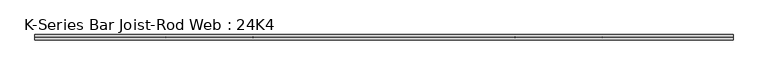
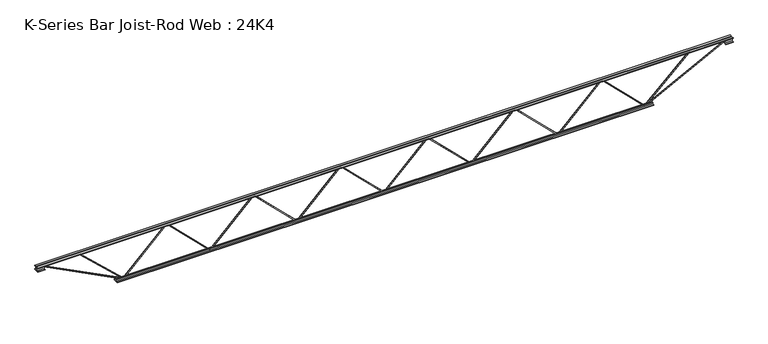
"""IFC4 building model written with IfcOpenShell, lengths in millimetres: beam geometry, K-Series Bar Joist-Rod Web : 24K4."""

from ifc_helpers import new_model, si_unit, frame, origin, place, context, project, spatial, polyline, outline, extrude, source, transform, mapped, element, save


def k_series_bar_joist_rod_web_24k4_b54f82ce(model_context):
    return source(origin(), model_context, "Body", "SweptSolid", [
        extrude(outline(polyline([(-293.6875, 1223.645), (-303.2125, 1223.645), (-303.2125, 1228.7733784), (293.6875, 1834.0077534), (293.6875, 1836.4509966), (-303.2125, 2441.6853716), (-303.2125, 2446.81375), (-293.6875, 2446.81375), (-293.6875, 2445.5921284), (303.2125, 1840.3577534), (303.2125, 1830.1009966), (-293.6875, 1224.8666216), (-293.6875, 1223.645)])), frame((0.0, -4.7625, 0.0), z_axis=(0.0, 1.0, 0.0), x_axis=(0.0, 0.0, 1.0)), (0.0, 0.0, 1.0), 9.525),
        extrude(outline(polyline([(-293.6875, 0.15875), (-303.2125, 0.15875), (-303.2125, 5.2871284), (293.6875, 610.5215034), (293.6875, 612.9647466), (-303.2125, 1218.1991216), (-303.2125, 1223.3275), (-293.6875, 1223.3275), (-293.6875, 1222.1058784), (303.2125, 616.8715034), (303.2125, 606.6147466), (-293.6875, 1.3803716), (-293.6875, 0.15875)])), frame((0.0, -4.7625, 0.0), z_axis=(0.0, 1.0, 0.0), x_axis=(0.0, 0.0, 1.0)), (0.0, 0.0, 1.0), 9.525),
        extrude(outline(polyline([(-293.6875, -1223.3275), (-303.2125, -1223.3275), (-303.2125, -1218.1991216), (293.6875, -612.9647466), (293.6875, -610.5215034), (-303.2125, -5.2871284), (-303.2125, -0.15875), (-293.6875, -0.15875), (-293.6875, -1.3803716), (303.2125, -606.6147466), (303.2125, -616.8715034), (-293.6875, -1222.1058784), (-293.6875, -1223.3275)])), frame((0.0, -4.7625, 0.0), z_axis=(0.0, 1.0, 0.0), x_axis=(0.0, 0.0, 1.0)), (0.0, 0.0, 1.0), 9.525),
        extrude(outline(polyline([(-293.6875, -2446.81375), (-303.2125, -2446.81375), (-303.2125, -2441.6853716), (293.6875, -1836.4509966), (293.6875, -1834.0077534), (-303.2125, -1228.7733784), (-303.2125, -1223.645), (-293.6875, -1223.645), (-293.6875, -1224.8666216), (303.2125, -1830.1009966), (303.2125, -1840.3577534), (-293.6875, -2445.5921284), (-293.6875, -2446.81375)])), frame((0.0, -4.7625, 0.0), z_axis=(0.0, 1.0, 0.0), x_axis=(0.0, 0.0, 1.0)), (0.0, 0.0, 1.0), 9.525),
        extrude(outline(polyline([(-293.6875, 2447.13125), (-303.2125, 2447.13125), (-303.2125, 2452.2596284), (293.6875, 3057.4940034), (293.6875, 3059.9372466), (-303.2125, 3665.1716216), (-303.2125, 3670.3), (-293.6875, 3670.3), (-293.6875, 3669.0783784), (303.2125, 3063.8440034), (303.2125, 3053.5872466), (-293.6875, 2448.3528716), (-293.6875, 2447.13125)])), frame((0.0, -4.7625, 0.0), z_axis=(0.0, 1.0, 0.0), x_axis=(0.0, 0.0, 1.0)), (0.0, 0.0, 1.0), 9.525),
        extrude(outline(polyline([(-293.6875, -3670.3), (-303.2125, -3670.3), (-303.2125, -3665.1716216), (293.6875, -3059.9372466), (293.6875, -3057.4940034), (-303.2125, -2452.2596284), (-303.2125, -2447.13125), (-293.6875, -2447.13125), (-293.6875, -2448.3528716), (303.2125, -3053.5872466), (303.2125, -3063.8440034), (-293.6875, -3669.0783784), (-293.6875, -3670.3)])), frame((0.0, -4.7625, 0.0), z_axis=(0.0, 1.0, 0.0), x_axis=(0.0, 0.0, 1.0)), (0.0, 0.0, 1.0), 9.525),
        extrude(outline(polyline([(4.7625, 304.8), (36.5125, 304.8), (36.5125, 298.45), (11.1125, 298.45), (11.1125, 273.05), (4.7625, 273.05), (4.7625, 304.8)])), frame((-4889.5, 0.0, 0.0), z_axis=(1.0, 0.0, 0.0), x_axis=(0.0, 1.0, 0.0)), (0.0, 0.0, 1.0), 9779.0),
        extrude(outline(polyline([(-4.7625, 304.8), (-4.7625, 273.05), (-11.1125, 273.05), (-11.1125, 298.45), (-36.5125, 298.45), (-36.5125, 304.8), (-4.7625, 304.8)])), frame((-4889.5, 0.0, 0.0), z_axis=(1.0, 0.0, 0.0), x_axis=(0.0, 1.0, 0.0)), (0.0, 0.0, 1.0), 9779.0),
        extrude(outline(polyline([(-4.7625, 241.3), (-36.5125, 241.3), (-36.5125, 247.65), (-11.1125, 247.65), (-11.1125, 273.05), (-4.7625, 273.05), (-4.7625, 241.3)])), frame((-4889.5, 0.0, 0.0), z_axis=(1.0, 0.0, 0.0), x_axis=(0.0, 1.0, 0.0)), (0.0, 0.0, 1.0), 101.6),
        extrude(outline(polyline([(36.5125, 241.3), (4.7625, 241.3), (4.7625, 273.05), (11.1125, 273.05), (11.1125, 247.65), (36.5125, 247.65), (36.5125, 241.3)])), frame((-4889.5, 0.0, 0.0), z_axis=(1.0, 0.0, 0.0), x_axis=(0.0, 1.0, 0.0)), (0.0, 0.0, 1.0), 101.6),
        extrude(outline(polyline([(4.7625, 241.3), (4.7625, 273.05), (11.1125, 273.05), (11.1125, 247.65), (36.5125, 247.65), (36.5125, 241.3), (4.7625, 241.3)])), frame((4787.9, 0.0, 0.0), z_axis=(1.0, 0.0, 0.0), x_axis=(0.0, 1.0, 0.0)), (0.0, 0.0, 1.0), 101.6),
        extrude(outline(polyline([(-4.7625, 241.3), (-36.5125, 241.3), (-36.5125, 247.65), (-11.1125, 247.65), (-11.1125, 273.05), (-4.7625, 273.05), (-4.7625, 241.3)])), frame((4787.9, 0.0, 0.0), z_axis=(1.0, 0.0, 0.0), x_axis=(0.0, 1.0, 0.0)), (0.0, 0.0, 1.0), 101.6),
        extrude(outline(polyline([(4.7625, -304.8), (4.7625, -273.05), (11.1125, -273.05), (11.1125, -298.45), (36.5125, -298.45), (36.5125, -304.8), (4.7625, -304.8)])), frame((-3771.9, 0.0, 0.0), z_axis=(1.0, 0.0, 0.0), x_axis=(0.0, 1.0, 0.0)), (0.0, 0.0, 1.0), 7543.8),
        extrude(outline(polyline([(-4.7625, -304.8), (-36.5125, -304.8), (-36.5125, -298.45), (-11.1125, -298.45), (-11.1125, -273.05), (-4.7625, -273.05), (-4.7625, -304.8)])), frame((-3771.9, 0.0, 0.0), z_axis=(1.0, 0.0, 0.0), x_axis=(0.0, 1.0, 0.0)), (0.0, 0.0, 1.0), 7543.8),
        extrude(outline(polyline([(0.0, -9.525), (0.0, 0.0), (1255.2457966, 0.0), (1255.2457966, -9.525), (0.0, -9.525)])), frame((-4790.0683154, 4.7625, 268.8097388), z_axis=(0.4552893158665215, 0.0, 0.8903435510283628), x_axis=(0.8903435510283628, 0.0, -0.4552893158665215)), (0.0, 0.0, 1.0), 9.525),
        extrude(outline(polyline([(0.0, -9.525), (0.0, 0.0), (837.0470105, 0.0), (837.0470105, -9.525), (0.0, -9.525)])), frame((-4285.1360069, 4.7625, 269.5703023), z_axis=(0.6827573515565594, 0.0, 0.7306451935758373), x_axis=(0.7306451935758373, 0.0, -0.6827573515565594)), (0.0, 0.0, 1.0), 9.525),
        extrude(outline(polyline([(0.0, -9.525), (0.0, 0.0), (1255.2457966, 0.0), (1255.2457966, -9.525), (0.0, -9.525)])), frame((4790.0683154, -4.7625, 268.8097388), z_axis=(-0.455289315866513, 0.0, 0.8903435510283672), x_axis=(-0.8903435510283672, 0.0, -0.455289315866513)), (0.0, 0.0, 1.0), 9.525),
        extrude(outline(polyline([(0.0, -9.525), (0.0, 0.0), (837.0470105, 0.0), (837.0470105, -9.525), (0.0, -9.525)])), frame((4285.1360069, -4.7625, 269.5703023), z_axis=(-0.6827573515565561, 0.0, 0.7306451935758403), x_axis=(-0.7306451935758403, 0.0, -0.6827573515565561)), (0.0, 0.0, 1.0), 9.525),
    ])


if __name__ == "__main__":
    model = new_model("IFC4")
    model_context = context("Model", 3, world=origin())
    ifc_project = project(units=[si_unit("LENGTHUNIT", "METRE", prefix="MILLI")], contexts=[model_context])
    site = spatial("IfcSite", under=ifc_project)
    building = spatial("IfcBuilding", under=site)
    placement = place(None, origin())
    k_series_bar_joist_rod_web_24k4_shape = k_series_bar_joist_rod_web_24k4_b54f82ce(model_context)
    element("IfcBeam", 1, ObjectType="K-Series Bar Joist-Rod Web : 24K4", at=placement, inside=building, context=model_context, shape_type="MappedRepresentation", body=[
        mapped(k_series_bar_joist_rod_web_24k4_shape, transform((0.0, 0.0, 0.0), x_axis=(1.0, 0.0, 0.0), y_axis=(0.0, 1.0, 0.0), z_axis=(0.0, 0.0, 1.0))),
    ])
    save(model, "model.ifc")
